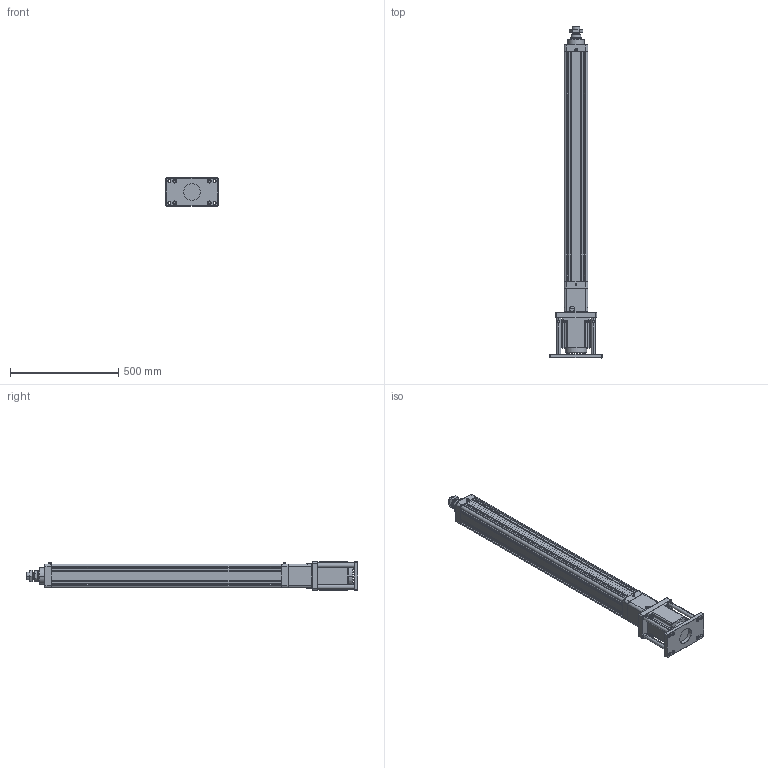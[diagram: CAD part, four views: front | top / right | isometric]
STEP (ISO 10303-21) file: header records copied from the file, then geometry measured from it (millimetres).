
FILE_DESCRIPTION((''),'2;1');
FILE_NAME('HE100-D-P_ASM','2020-04-21T',('ASUS20200'),(''),'CREO PARAMETRIC BY PTC INC, 2014190','CREO PARAMETRIC BY PTC INC, 2014190','');
FILE_SCHEMA(('CONFIG_CONTROL_DESIGN'));
Length unit declared in the file: millimetre
Products named in the file (23): HE100-D-P-001-X1; HE100-D-P-002-X1; HE100-D-P-003-X1; 30305J; JDB506030; SLM-01; YZ-M6X1; HE100-100-D-P-X1_ASM; HE100-D-009-X1; HE100-D-010-X1-130N; M8X20; 130ST-M10010; TD-8; M8X40; SKT-20; HE100-D-P-005-X1; HE100-D-P-004-X1; HE80-D-P-008-X1; LGLM-M10-25; HE100-FB-LG; F-HE100FB; M10X30; HE100-D-P_ASM
Assembly tree (46 placements, depth 3):
  HE100-D-P_ASM
    HE100-100-D-P-X1_ASM
      HE100-D-P-001-X1
      HE100-D-P-002-X1
      HE100-D-P-003-X1
      30305J  x2
      JDB506030
      SLM-01
      YZ-M6X1
    HE100-D-009-X1
    HE100-D-010-X1-130N
    M8X20  x4
    130ST-M10010
    TD-8  x4
    M8X40  x4
    SKT-20  x2
    HE100-D-P-005-X1
    HE100-D-P-004-X1
    HE80-D-P-008-X1
    LGLM-M10-25  x4
    HE100-FB-LG  x4
    F-HE100FB
    M10X30  x8
Bounding box: 240 x 1532 x 130 mm (x, y, z)
Volume: 8582061.2 mm3; surface area: 2037565.9 mm2
Topology: 45 solids, 76 shells, 2049 faces, 4752 edges, 2905 vertices
Faces by surface type: plane 669, cylinder 649, cone 583, torus 114, sphere 30, bspline 4
Entity records: 44129 total; most frequent: CARTESIAN_POINT 8277, DIRECTION 8075, ORIENTED_EDGE 6826, EDGE_CURVE 3460, AXIS2_PLACEMENT_3D 3180, VERTEX_POINT 2119, EDGE_LOOP 1743, VECTOR 1715
